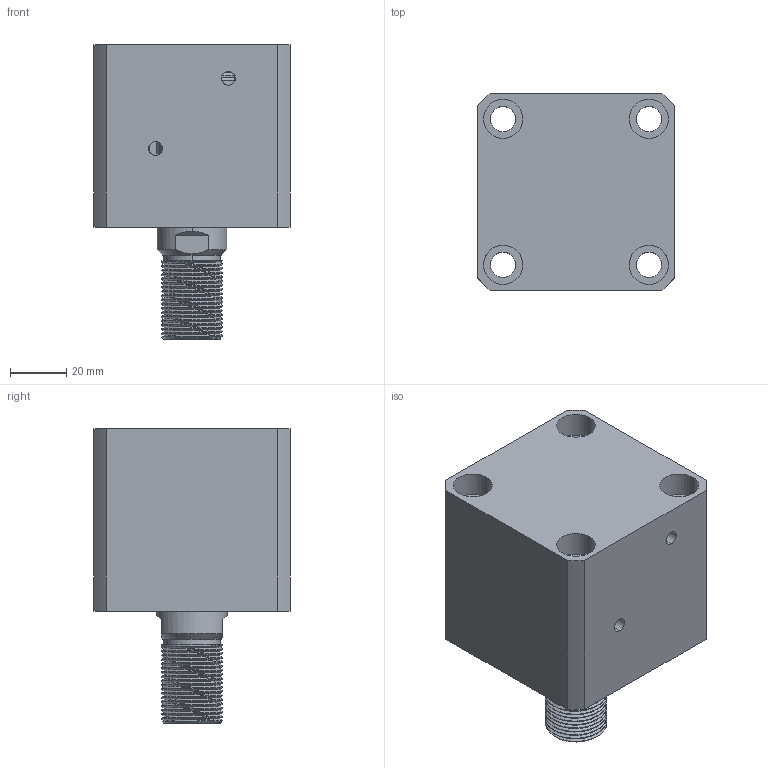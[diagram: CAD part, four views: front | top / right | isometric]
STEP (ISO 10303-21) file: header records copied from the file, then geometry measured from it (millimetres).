
FILE_DESCRIPTION (( 'STEP AP214' ), '1' );
FILE_NAME ('chtb-sdma40x10w_asm.STEP', '2018-06-06T00:58:45', ( 'Windows' ), ( 'Microsoft' ), 'SwSTEP 2.0', 'SolidWorks 2015', '' );
FILE_SCHEMA (( 'AUTOMOTIVE_DESIGN' ));
Length unit declared in the file: millimetre
Products named in the file (4): CHTB-SDMA40X10NBT; CHTB-SD40X10WHSG; CHTB-SD40QG; chtb-sdma40x10w_asm
Assembly tree (3 placements, depth 2):
  chtb-sdma40x10w_asm
    CHTB-SD40QG
    CHTB-SD40X10WHSG
    CHTB-SDMA40X10NBT
Bounding box: 70 x 70 x 105 mm (x, y, z)
Volume: 295890.8 mm3; surface area: 67376.7 mm2
Topology: 3 solids, 4 shells, 203 faces, 545 edges, 363 vertices
Faces by surface type: cylinder 122, plane 40, bspline 16, torus 14, cone 11
Entity records: 13587 total; most frequent: CARTESIAN_POINT 8658, ORIENTED_EDGE 1078, DIRECTION 914, EDGE_CURVE 539, AXIS2_PLACEMENT_3D 378, VERTEX_POINT 363, EDGE_LOOP 240, ADVANCED_FACE 203
